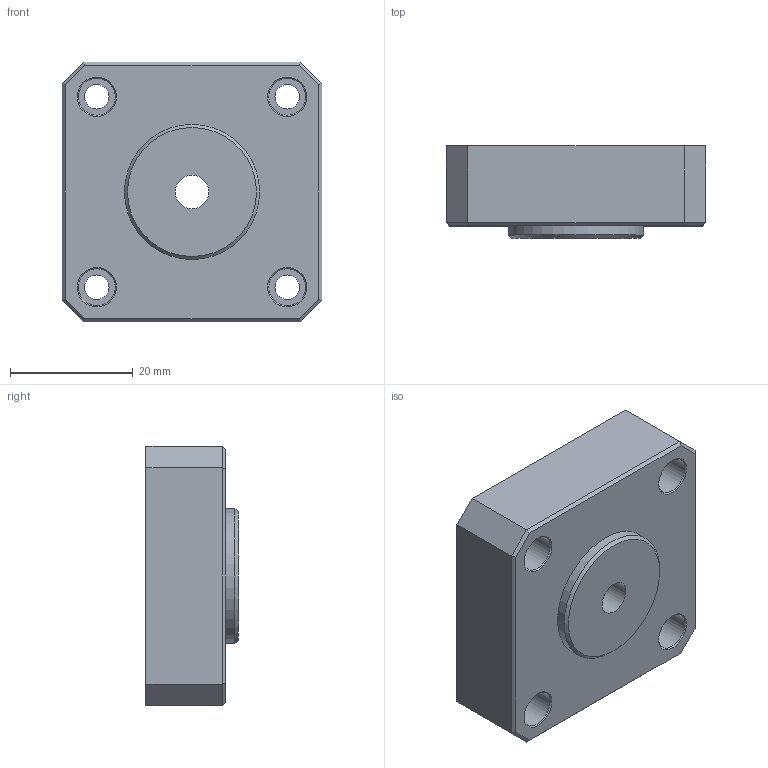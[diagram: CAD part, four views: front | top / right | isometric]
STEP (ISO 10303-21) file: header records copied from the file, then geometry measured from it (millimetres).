
FILE_DESCRIPTION(/* description */ ('STEP AP242 Edition 2','CAx-IF Rec.Pracs.---Representation and Presentation of Product Manufacturing Information (PMI)---4.0---2014-10-13','CAx-IF Rec.Pracs.---3D Tessellated Geometry---0.4---2014-09-14','2;1','CAx-IF Rec.Pracs.---User Defined Attributes---1.5---2016-08-15'),/* implementation_level */ '2;1');
FILE_NAME(/* name */ 'Assembly V2 - palier v2',/* time_stamp */ '2026-02-05T22:44:40Z',/* author */ (''),/* organization */ (''),/* preprocessor_version */ 'ST-DEVELOPER v20',/* originating_system */ 'ONSHAPE BY PTC INC, 1.210',/* authorisation */ ' ');
FILE_SCHEMA (('AP242_MANAGED_MODEL_BASED_3D_ENGINEERING_MIM_LF { 1 0 10303 442 3 1 4 }'));
Length unit declared in the file: metre
Products named in the file (1): palier v2
Bounding box: 42.3 x 15 x 42.3 mm (x, y, z)
Volume: 21398.3 mm3; surface area: 6728.8 mm2
Topology: 1 solids, 1 shells, 41 faces, 85 edges, 52 vertices
Faces by surface type: plane 24, cylinder 11, cone 6
Full cylindrical faces by diameter (mm): 4 x4, 5.5 x1, 6 x4, 16 x1, 22 x1
Entity records: 1032 total; most frequent: DIRECTION 180, CARTESIAN_POINT 162, ORIENTED_EDGE 136, EDGE_LOOP 74, FACE_BOUND 74, AXIS2_PLACEMENT_3D 70, EDGE_CURVE 68, VERTEX_POINT 52
